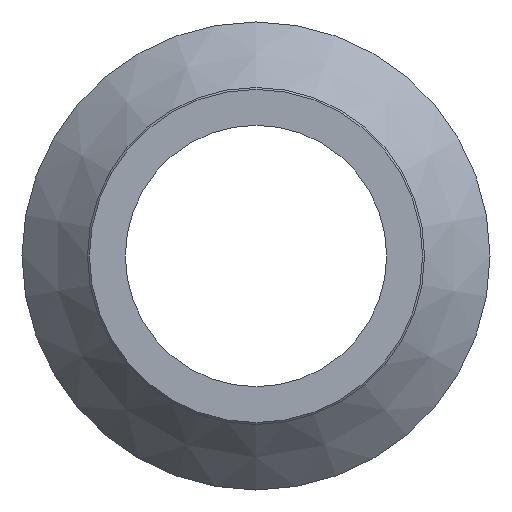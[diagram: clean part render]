
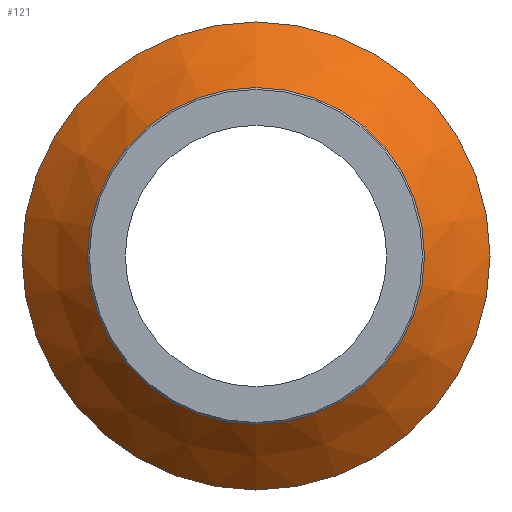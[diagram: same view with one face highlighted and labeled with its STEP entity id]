
A CAD part, left-side view. The second image highlights one B-rep face of the part: STEP entity #121.
In plain terms, the highlighted conical face has half-angle 44.193 degrees and reference radius 62.5 mm.
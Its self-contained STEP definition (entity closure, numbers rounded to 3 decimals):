
#22=CONICAL_SURFACE('',#146,62.5,0.771);
#28=ORIENTED_EDGE('',*,*,#48,.F.);
#29=ORIENTED_EDGE('',*,*,#47,.T.);
#47=EDGE_CURVE('',#57,#57,#67,.T.);
#48=EDGE_CURVE('',#58,#58,#68,.T.);
#57=VERTEX_POINT('',#210);
#58=VERTEX_POINT('',#213);
#67=CIRCLE('',#145,62.5);
#68=CIRCLE('',#147,45.);
#78=EDGE_LOOP('',(#28));
#79=EDGE_LOOP('',(#29));
#98=FACE_BOUND('',#78,.T.);
#99=FACE_BOUND('',#79,.T.);
#121=ADVANCED_FACE('',(#98,#99),#22,.T.);
#145=AXIS2_PLACEMENT_3D('',#209,#169,#170);
#146=AXIS2_PLACEMENT_3D('',#211,#171,#172);
#147=AXIS2_PLACEMENT_3D('',#212,#173,#174);
#169=DIRECTION('',(-1.,0.,0.));
#170=DIRECTION('',(0.,0.,1.));
#171=DIRECTION('',(1.,0.,0.));
#172=DIRECTION('',(0.,0.,-1.));
#173=DIRECTION('',(-1.,0.,0.));
#174=DIRECTION('',(0.,0.,1.));
#209=CARTESIAN_POINT('',(9.,0.,0.));
#210=CARTESIAN_POINT('',(9.,0.,62.5));
#211=CARTESIAN_POINT('',(9.,0.,0.));
#212=CARTESIAN_POINT('',(-9.,0.,0.));
#213=CARTESIAN_POINT('',(-9.,0.,45.));
